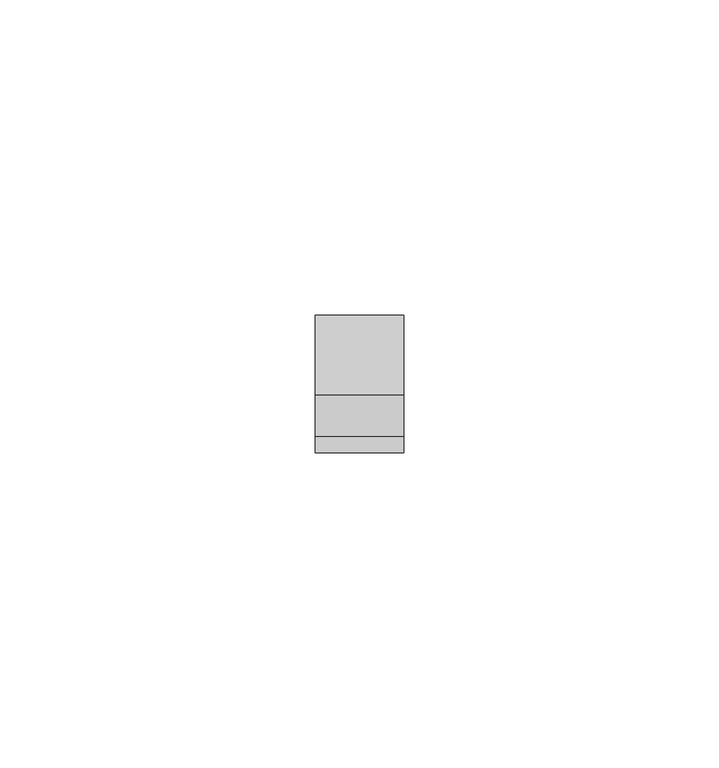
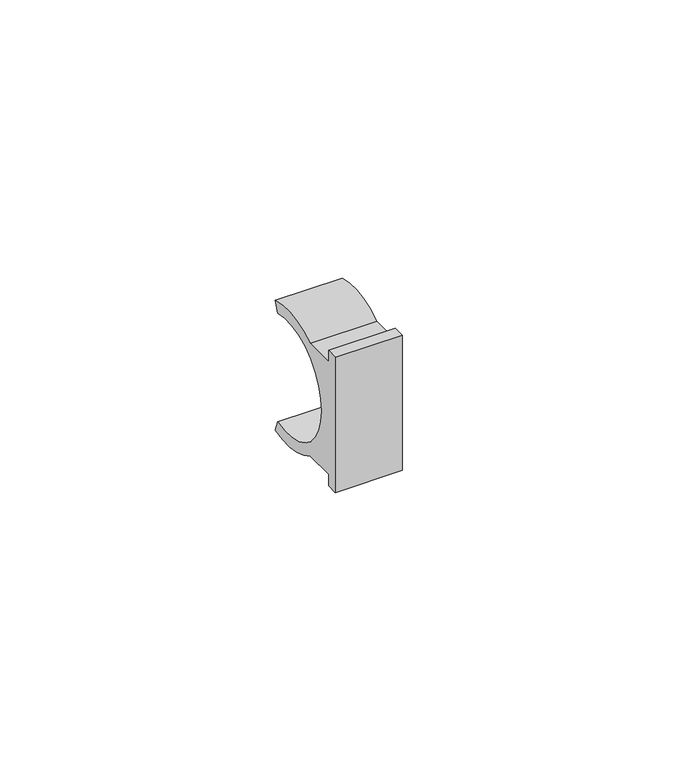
"""IFC4 building model written with IfcOpenShell, lengths in millimetres: valve geometry, PP-R_Clip : DN20 PP-R single clip."""

from ifc_helpers import new_model, si_unit, point, frame, frame_2d, origin, place, context, project, spatial, polyline, circle_curve, trimmed, segment, composite_curve, outline, extrude, source, transform, mapped, element, save


def valve_24807e3c(model_context):
    return source(origin(), model_context, "Body", "SweptSolid", [
        extrude(outline(composite_curve([segment(trimmed(circle_curve(frame_2d((0.0, -13.0873)), 12.5), [point((3.4202014, -1.0643127))], [point((3.4202014, -25.1102872))], True, "CARTESIAN"), True, "CONTINUOUS"), segment(polyline([(3.4202014, -25.1102872), (4.2770972, -27.464589)]), True, "CONTINUOUS"), segment(trimmed(circle_curve(frame_2d((0.0, -13.0873)), 15.0), [point((4.2770972, -27.464589))], [point((-8.291562, -25.5873))], False, "CARTESIAN"), True, "CONTINUOUS"), segment(polyline([(-8.291562, -25.5873), (-15.0, -25.5873), (-15.0, -28.0873), (-17.5, -28.0873), (-17.5, 1.9127), (-15.0, 1.9127), (-15.0, -0.5873), (-8.291562, -0.5873)]), True, "CONTINUOUS"), segment(trimmed(circle_curve(frame_2d((0.0, -13.0873)), 15.0), [point((-8.291562, -0.5873))], [point((4.2770972, 1.2899891))], False, "CARTESIAN"), True, "CONTINUOUS"), segment(polyline([(4.2770972, 1.2899891), (3.4202014, -1.0643127)]), True, "CONTINUOUS")], self_intersect=False)), frame((9.5156627, 0.0, 0.0), z_axis=(1.0, 0.0, 0.0), x_axis=(0.0, 1.0, 0.0)), (0.0, 0.0, 1.0), 14.0),
    ])


if __name__ == "__main__":
    model = new_model("IFC4")
    model_context = context("Model", 3, world=origin())
    ifc_project = project(units=[si_unit("LENGTHUNIT", "METRE", prefix="MILLI")], contexts=[model_context])
    site = spatial("IfcSite", under=ifc_project)
    building = spatial("IfcBuilding", under=site)
    placement = place(None, origin())
    valve_shape = valve_24807e3c(model_context)
    element("IfcValve", 1, ObjectType="PP-R_Clip : DN20 PP-R single clip", at=placement, inside=building, context=model_context, shape_type="MappedRepresentation", body=[
        mapped(valve_shape, transform((0.0, 0.0, 0.0), x_axis=(1.0, 0.0, 0.0), y_axis=(0.0, 1.0, 0.0), z_axis=(0.0, 0.0, 1.0))),
    ])
    save(model, "model.ifc")
